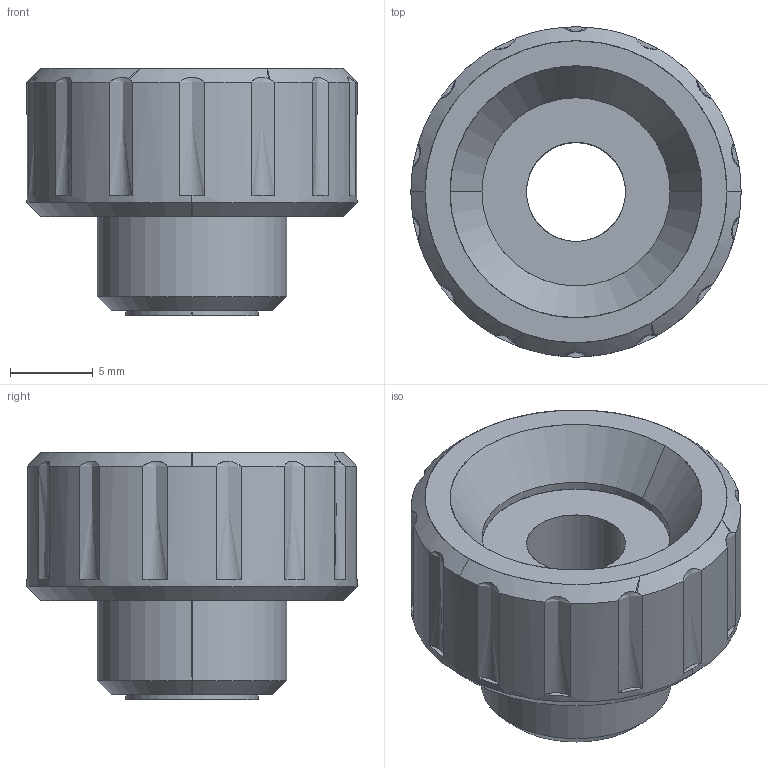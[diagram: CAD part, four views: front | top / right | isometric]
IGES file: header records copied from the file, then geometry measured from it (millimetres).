
Start section: SolidWorks IGES file using analytic representation for surfaces
Global section: file name: Y:\5.更新分\2023年対応\1013_FTK20_25更新分\FTK20T\FTK20T.IGS; native system: SolidWorks 2021; preprocessor: SolidWorks 2021; author: ImaoCorp; date: 231017.110728; units: millimetre
Bounding box: 20 x 20 x 15 mm (x, y, z)
Surface area: 1579.2 mm2 (no closed solid volume)
Topology: 0 solids, 0 shells, 56 faces, 739 edges, 739 vertices
Faces by surface type: revolution 37, bspline 19
